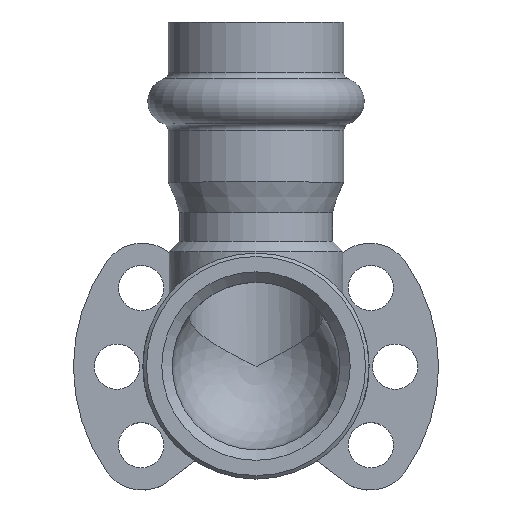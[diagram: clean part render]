
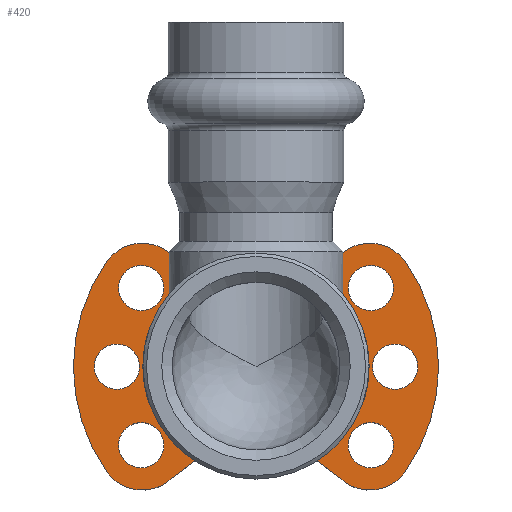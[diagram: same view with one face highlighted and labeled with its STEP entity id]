
A CAD part, top view. The second image highlights one B-rep face of the part: STEP entity #420.
In plain terms, the highlighted planar face has unit normal (0, 0, 1).
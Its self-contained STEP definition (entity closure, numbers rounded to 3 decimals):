
#420=ADVANCED_FACE('',(#3310,#3312,#3314,#3316,#3318,#3320,#3322),#3324,.F.);
#3310=FACE_BOUND('',#3311,.T.);
#3311=EDGE_LOOP('',(#8569,#8570,#8571,#8572,#8573,#8574,#8575,#8576,#8577,#8578,
#8579,#8580,#8581,#8582,#8583,#8584,#8585,#8586));
#3312=FACE_BOUND('',#3313,.T.);
#3313=EDGE_LOOP('',(#8587));
#3314=FACE_BOUND('',#3315,.T.);
#3315=EDGE_LOOP('',(#8588));
#3316=FACE_BOUND('',#3317,.T.);
#3317=EDGE_LOOP('',(#8589));
#3318=FACE_BOUND('',#3319,.T.);
#3319=EDGE_LOOP('',(#8590));
#3320=FACE_BOUND('',#3321,.T.);
#3321=EDGE_LOOP('',(#8591));
#3322=FACE_BOUND('',#3323,.T.);
#3323=EDGE_LOOP('',(#8592));
#3324=PLANE('',#3325);
#3325=AXIS2_PLACEMENT_3D('',#3326,#3327,#3328);
#3326=CARTESIAN_POINT('',(0.,0.,-16.));
#3327=DIRECTION('',(0.,0.,-1.));
#3328=DIRECTION('',(-1.,0.,0.));
#8569=ORIENTED_EDGE('',*,*,#11805,.F.);
#8570=ORIENTED_EDGE('',*,*,#11803,.T.);
#8571=ORIENTED_EDGE('',*,*,#11800,.F.);
#8572=ORIENTED_EDGE('',*,*,#12399,.F.);
#8573=ORIENTED_EDGE('',*,*,#12400,.F.);
#8574=ORIENTED_EDGE('',*,*,#12401,.F.);
#8575=ORIENTED_EDGE('',*,*,#12402,.F.);
#8576=ORIENTED_EDGE('',*,*,#12403,.F.);
#8577=ORIENTED_EDGE('',*,*,#12404,.T.);
#8578=ORIENTED_EDGE('',*,*,#12405,.T.);
#8579=ORIENTED_EDGE('',*,*,#12406,.T.);
#8580=ORIENTED_EDGE('',*,*,#12407,.T.);
#8581=ORIENTED_EDGE('',*,*,#12408,.T.);
#8582=ORIENTED_EDGE('',*,*,#12409,.T.);
#8583=ORIENTED_EDGE('',*,*,#11796,.T.);
#8584=ORIENTED_EDGE('',*,*,#11794,.T.);
#8585=ORIENTED_EDGE('',*,*,#11808,.F.);
#8586=ORIENTED_EDGE('',*,*,#11806,.T.);
#8587=ORIENTED_EDGE('',*,*,#12410,.T.);
#8588=ORIENTED_EDGE('',*,*,#12411,.T.);
#8589=ORIENTED_EDGE('',*,*,#12412,.T.);
#8590=ORIENTED_EDGE('',*,*,#12413,.F.);
#8591=ORIENTED_EDGE('',*,*,#12414,.F.);
#8592=ORIENTED_EDGE('',*,*,#12415,.F.);
#11794=EDGE_CURVE('',#14674,#14672,#14675,.T.);
#11796=EDGE_CURVE('',#14677,#14674,#14678,.T.);
#11800=EDGE_CURVE('',#14683,#14685,#14686,.T.);
#11803=EDGE_CURVE('',#14688,#14685,#14690,.F.);
#11805=EDGE_CURVE('',#14688,#14691,#14693,.F.);
#11806=EDGE_CURVE('',#14694,#14691,#14695,.F.);
#11808=EDGE_CURVE('',#14694,#14672,#14697,.F.);
#12399=EDGE_CURVE('',#15642,#14683,#15643,.T.);
#12400=EDGE_CURVE('',#15644,#15642,#15645,.T.);
#12401=EDGE_CURVE('',#15646,#15644,#15647,.T.);
#12402=EDGE_CURVE('',#15648,#15646,#15649,.T.);
#12403=EDGE_CURVE('',#15650,#15648,#15651,.T.);
#12404=EDGE_CURVE('',#15650,#15652,#15653,.T.);
#12405=EDGE_CURVE('',#15652,#15654,#15655,.T.);
#12406=EDGE_CURVE('',#15654,#15656,#15657,.T.);
#12407=EDGE_CURVE('',#15656,#15658,#15659,.T.);
#12408=EDGE_CURVE('',#15658,#15660,#15661,.T.);
#12409=EDGE_CURVE('',#15660,#14677,#15662,.T.);
#12410=EDGE_CURVE('',#15663,#15663,#15664,.T.);
#12411=EDGE_CURVE('',#15665,#15665,#15666,.T.);
#12412=EDGE_CURVE('',#15667,#15667,#15668,.T.);
#12413=EDGE_CURVE('',#15669,#15669,#15670,.T.);
#12414=EDGE_CURVE('',#15671,#15671,#15672,.T.);
#12415=EDGE_CURVE('',#15673,#15673,#15674,.T.);
#14672=VERTEX_POINT('',#23912);
#14674=VERTEX_POINT('',#23916);
#14675=LINE('',#23917,#23918);
#14677=VERTEX_POINT('',#23923);
#14678=LINE('',#23924,#23925);
#14683=VERTEX_POINT('',#23935);
#14685=VERTEX_POINT('',#23939);
#14686=LINE('',#23940,#23941);
#14688=VERTEX_POINT('',#23946);
#14690=LINE('',#23950,#23951);
#14691=VERTEX_POINT('',#23953);
#14693=CIRCLE('',#23957,1.);
#14694=VERTEX_POINT('',#23961);
#14695=LINE('',#23962,#23963);
#14697=CIRCLE('',#23968,1.);
#15642=VERTEX_POINT('',#28891);
#15643=LINE('',#28892,#28893);
#15644=VERTEX_POINT('',#28895);
#15645=CIRCLE('',#28896,6.25);
#15646=VERTEX_POINT('',#28900);
#15647=CIRCLE('',#28901,26.25);
#15648=VERTEX_POINT('',#28905);
#15649=CIRCLE('',#28906,6.25);
#15650=VERTEX_POINT('',#28910);
#15651=LINE('',#28911,#28912);
#15652=VERTEX_POINT('',#28914);
#15653=LINE('',#28915,#28916);
#15654=VERTEX_POINT('',#28918);
#15655=LINE('',#28919,#28920);
#15656=VERTEX_POINT('',#28922);
#15657=CIRCLE('',#28923,6.25);
#15658=VERTEX_POINT('',#28927);
#15659=CIRCLE('',#28928,26.25);
#15660=VERTEX_POINT('',#28932);
#15661=CIRCLE('',#28933,6.25);
#15662=LINE('',#28937,#28938);
#15663=VERTEX_POINT('',#28940);
#15664=CIRCLE('',#28941,3.25);
#15665=VERTEX_POINT('',#28945);
#15666=CIRCLE('',#28946,3.25);
#15667=VERTEX_POINT('',#28950);
#15668=CIRCLE('',#28951,3.25);
#15669=VERTEX_POINT('',#28955);
#15670=CIRCLE('',#28956,3.25);
#15671=VERTEX_POINT('',#28960);
#15672=CIRCLE('',#28961,3.25);
#15673=VERTEX_POINT('',#28965);
#15674=CIRCLE('',#28966,3.25);
#23912=CARTESIAN_POINT('',(4.,-4.25,-16.));
#23916=CARTESIAN_POINT('',(4.,10.75,-16.));
#23917=CARTESIAN_POINT('',(4.,10.75,-16.));
#23918=VECTOR('',#23919,1.);
#23919=DIRECTION('',(0.,-1.,0.));
#23923=CARTESIAN_POINT('',(5.,10.75,-16.));
#23924=CARTESIAN_POINT('',(5.,10.75,-16.));
#23925=VECTOR('',#23926,1.);
#23926=DIRECTION('',(-1.,0.,0.));
#23935=CARTESIAN_POINT('',(-5.,10.75,-16.));
#23939=CARTESIAN_POINT('',(-4.,10.75,-16.));
#23940=CARTESIAN_POINT('',(-5.,10.75,-16.));
#23941=VECTOR('',#23942,1.);
#23942=DIRECTION('',(1.,0.,0.));
#23946=CARTESIAN_POINT('',(-4.,-4.25,-16.));
#23950=CARTESIAN_POINT('',(-4.,10.75,-16.));
#23951=VECTOR('',#23952,1.);
#23952=DIRECTION('',(0.,-1.,0.));
#23953=CARTESIAN_POINT('',(-3.,-5.25,-16.));
#23957=AXIS2_PLACEMENT_3D('',#23958,#23959,#23960);
#23958=CARTESIAN_POINT('',(-3.,-4.25,-16.));
#23959=DIRECTION('',(0.,0.,-1.));
#23960=DIRECTION('',(0.,-1.,0.));
#23961=CARTESIAN_POINT('',(3.,-5.25,-16.));
#23962=CARTESIAN_POINT('',(-3.,-5.25,-16.));
#23963=VECTOR('',#23964,1.);
#23964=DIRECTION('',(1.,0.,0.));
#23968=AXIS2_PLACEMENT_3D('',#23969,#23970,#23971);
#23969=CARTESIAN_POINT('',(3.,-4.25,-16.));
#23970=DIRECTION('',(0.,0.,-1.));
#23971=DIRECTION('',(1.,0.,0.));
#28891=CARTESIAN_POINT('',(-12.019,15.993,-16.));
#28892=CARTESIAN_POINT('',(-12.019,15.993,-16.));
#28893=VECTOR('',#28894,1.);
#28894=DIRECTION('',(0.801,-0.598,0.));
#28895=CARTESIAN_POINT('',(-21.477,15.094,-16.));
#28896=AXIS2_PLACEMENT_3D('',#28897,#28898,#28899);
#28897=CARTESIAN_POINT('',(-16.363,11.5,-16.));
#28898=DIRECTION('',(0.,0.,-1.));
#28899=DIRECTION('',(-0.818,0.575,0.));
#28900=CARTESIAN_POINT('',(-21.477,-15.094,-16.));
#28901=AXIS2_PLACEMENT_3D('',#28902,#28903,#28904);
#28902=CARTESIAN_POINT('',(0.,0.,-16.));
#28903=DIRECTION('',(0.,0.,-1.));
#28904=DIRECTION('',(-0.818,-0.575,0.));
#28905=CARTESIAN_POINT('',(-12.019,-15.993,-16.));
#28906=AXIS2_PLACEMENT_3D('',#28907,#28908,#28909);
#28907=CARTESIAN_POINT('',(-16.363,-11.5,-16.));
#28908=DIRECTION('',(0.,0.,-1.));
#28909=DIRECTION('',(0.695,-0.719,0.));
#28910=CARTESIAN_POINT('',(-5.,-10.75,-16.));
#28911=CARTESIAN_POINT('',(-5.,-10.75,-16.));
#28912=VECTOR('',#28913,1.);
#28913=DIRECTION('',(-0.801,-0.598,0.));
#28914=CARTESIAN_POINT('',(5.,-10.75,-16.));
#28915=CARTESIAN_POINT('',(-5.,-10.75,-16.));
#28916=VECTOR('',#28917,1.);
#28917=DIRECTION('',(1.,0.,0.));
#28918=CARTESIAN_POINT('',(12.019,-15.993,-16.));
#28919=CARTESIAN_POINT('',(5.,-10.75,-16.));
#28920=VECTOR('',#28921,1.);
#28921=DIRECTION('',(0.801,-0.598,0.));
#28922=CARTESIAN_POINT('',(21.477,-15.094,-16.));
#28923=AXIS2_PLACEMENT_3D('',#28924,#28925,#28926);
#28924=CARTESIAN_POINT('',(16.363,-11.5,-16.));
#28925=DIRECTION('',(0.,0.,1.));
#28926=DIRECTION('',(-0.695,-0.719,0.));
#28927=CARTESIAN_POINT('',(21.477,15.094,-16.));
#28928=AXIS2_PLACEMENT_3D('',#28929,#28930,#28931);
#28929=CARTESIAN_POINT('',(0.,0.,-16.));
#28930=DIRECTION('',(0.,0.,1.));
#28931=DIRECTION('',(0.818,-0.575,0.));
#28932=CARTESIAN_POINT('',(12.019,15.993,-16.));
#28933=AXIS2_PLACEMENT_3D('',#28934,#28935,#28936);
#28934=CARTESIAN_POINT('',(16.363,11.5,-16.));
#28935=DIRECTION('',(0.,0.,1.));
#28936=DIRECTION('',(0.818,0.575,0.));
#28937=CARTESIAN_POINT('',(12.019,15.993,-16.));
#28938=VECTOR('',#28939,1.);
#28939=DIRECTION('',(-0.801,-0.598,0.));
#28940=CARTESIAN_POINT('',(-19.75,-11.303,-16.));
#28941=AXIS2_PLACEMENT_3D('',#28942,#28943,#28944);
#28942=CARTESIAN_POINT('',(-16.5,-11.303,-16.));
#28943=DIRECTION('',(0.,0.,-1.));
#28944=DIRECTION('',(-1.,0.,0.));
#28945=CARTESIAN_POINT('',(-19.75,11.303,-16.));
#28946=AXIS2_PLACEMENT_3D('',#28947,#28948,#28949);
#28947=CARTESIAN_POINT('',(-16.5,11.303,-16.));
#28948=DIRECTION('',(0.,0.,-1.));
#28949=DIRECTION('',(-1.,0.,0.));
#28950=CARTESIAN_POINT('',(-23.25,0.,-16.));
#28951=AXIS2_PLACEMENT_3D('',#28952,#28953,#28954);
#28952=CARTESIAN_POINT('',(-20.,0.,-16.));
#28953=DIRECTION('',(0.,0.,-1.));
#28954=DIRECTION('',(-1.,0.,0.));
#28955=CARTESIAN_POINT('',(23.25,0.,-16.));
#28956=AXIS2_PLACEMENT_3D('',#28957,#28958,#28959);
#28957=CARTESIAN_POINT('',(20.,0.,-16.));
#28958=DIRECTION('',(0.,0.,1.));
#28959=DIRECTION('',(1.,0.,0.));
#28960=CARTESIAN_POINT('',(19.75,11.303,-16.));
#28961=AXIS2_PLACEMENT_3D('',#28962,#28963,#28964);
#28962=CARTESIAN_POINT('',(16.5,11.303,-16.));
#28963=DIRECTION('',(0.,0.,1.));
#28964=DIRECTION('',(1.,0.,0.));
#28965=CARTESIAN_POINT('',(19.75,-11.303,-16.));
#28966=AXIS2_PLACEMENT_3D('',#28967,#28968,#28969);
#28967=CARTESIAN_POINT('',(16.5,-11.303,-16.));
#28968=DIRECTION('',(0.,0.,1.));
#28969=DIRECTION('',(1.,0.,0.));
